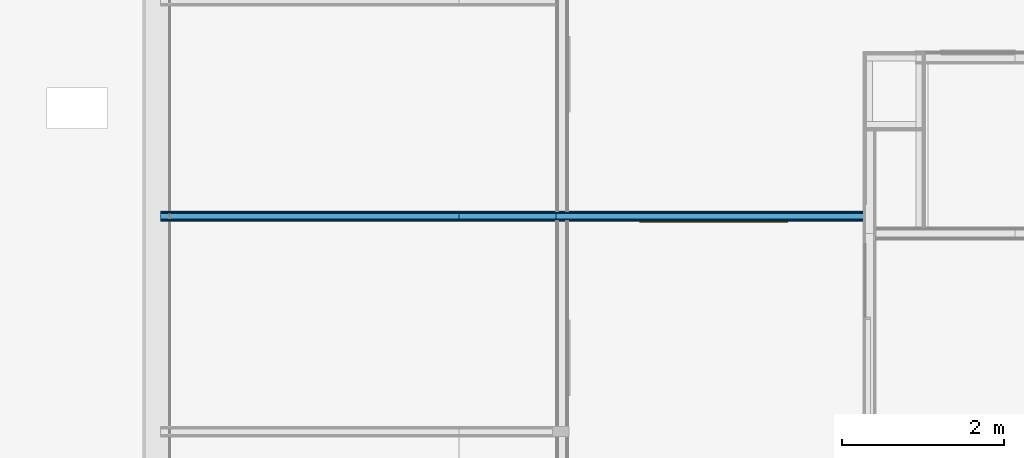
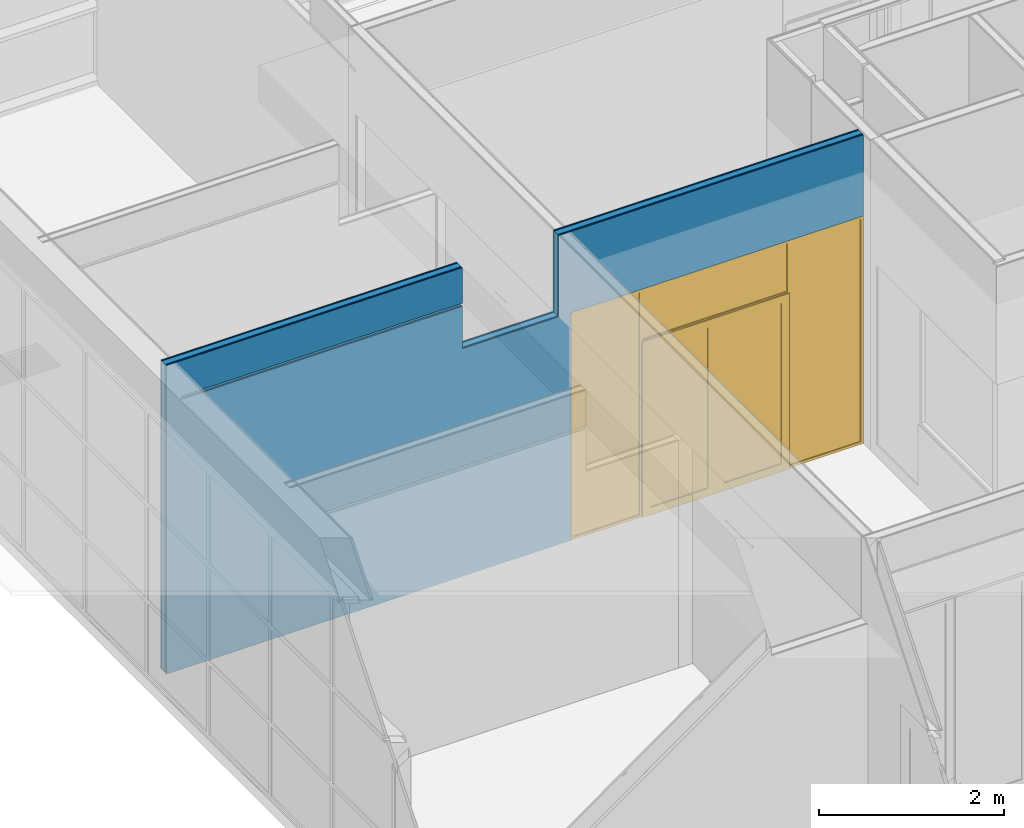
# One storey, part 41 of 109: 5 building element parts, 1 door, 1 opening, 1 element without a shape of its own.
"""IFC2X3 building model written with IfcOpenShell, lengths in millimetres."""

from ifc_helpers import new_model, entity, si_unit, converted_unit, derived_unit, money_unit, direction, frame, origin_with_axes, place, context, subcontext, project, spatial, open_shell, faceted_brep, surface_model, material, type_object, element, fill, aggregate, save


model = new_model("IFC2X3")

# Units and contexts
model_context = context("Model", 3, precision=0.01, world=origin_with_axes(), true_north=direction((0.0, 1.0)))
body_context = subcontext(model_context, "Body", "Model", "MODEL_VIEW")
ifc_project = project(units=[si_unit("LENGTHUNIT", "METRE", prefix="MILLI"), si_unit("AREAUNIT", "SQUARE_METRE"), si_unit("VOLUMEUNIT", "CUBIC_METRE"), converted_unit("PLANEANGLEUNIT", "DEGREE", entity("IfcPlaneAngleMeasure", 0.0174532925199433), si_unit("PLANEANGLEUNIT", "RADIAN"), dimensions=[0, 0, 0, 0, 0, 0, 0]), money_unit("EUR"), converted_unit("TIMEUNIT", "Year", entity("IfcTimeMeasure", 31557600.0), si_unit("TIMEUNIT", "SECOND"), dimensions=[0, 0, 1, 0, 0, 0, 0]), si_unit("MASSUNIT", "GRAM", prefix="KILO"), si_unit("THERMODYNAMICTEMPERATUREUNIT", "DEGREE_CELSIUS"), si_unit("LUMINOUSINTENSITYUNIT", "LUMEN"), si_unit("ENERGYUNIT", "JOULE", prefix="MEGA"), derived_unit("THERMALCONDUCTANCEUNIT", [(si_unit("POWERUNIT", "WATT"), 1), (si_unit("LENGTHUNIT", "METRE"), -1), (si_unit("THERMODYNAMICTEMPERATUREUNIT", "KELVIN"), -1)]), derived_unit("SPECIFICHEATCAPACITYUNIT", [(si_unit("ENERGYUNIT", "JOULE"), 1), (si_unit("MASSUNIT", "GRAM", prefix="KILO"), -1), (si_unit("THERMODYNAMICTEMPERATUREUNIT", "KELVIN"), -1)]), derived_unit("MASSDENSITYUNIT", [(si_unit("MASSUNIT", "GRAM", prefix="KILO"), 1), (si_unit("VOLUMEUNIT", "CUBIC_METRE"), -1)])], contexts=[model_context])

# Site, building, storey
site_placement = place(None, origin_with_axes())
site = spatial("IfcSite", under=ifc_project, at=site_placement, Name="<site naam>", CompositionType="ELEMENT")
building_placement = place(site_placement, origin_with_axes())
building = spatial("IfcBuilding", under=site, at=building_placement, Name="<Naam gebouw>", CompositionType="ELEMENT")
storey_placement = place(building_placement, origin_with_axes())
storey = spatial("IfcBuildingStorey", under=building, at=storey_placement, Name="00 Begane grond", CompositionType="ELEMENT", Elevation=0.0)

# Door
door_style = type_object("IfcDoorStyle", Name="D2 bl zl2 27", ConstructionType="NOTDEFINED", OperationType="USERDEFINED", ParameterTakesPrecedence=False, Sizeable=False)
wall_placement = place(storey_placement, frame((-8968.963389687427, 14666.66666666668, 0.0), z_axis=(0.0, 0.0, 1.0), x_axis=(1.0, 0.0, 0.0)))
opening_placement = place(wall_placement, frame((6868.963389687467, 0.0, 0.0), z_axis=(0.0, 0.0, 1.0), x_axis=(1.0, 0.0, 0.0)))
door_placement = place(opening_placement, frame((1825.000000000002, 0.0, 0.0), z_axis=(0.0, 0.0, 1.0), x_axis=(-1.0, 0.0, 0.0)))
door = element("IfcDoor", 1, at=door_placement, inside=storey, type_object=door_style, Name="22_BI-F-30_305", ObjectType="DOOR", OverallHeight=3000.0, OverallWidth=3650.0, context=body_context, shape_type="SurfaceModel", body=[
    faceted_brep([(3650.000000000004, 62.5, 0.0), (3650.000000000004, 42.50000000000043, 0.0), (3617.000000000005, 42.50000000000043, 0.0), (3617.000000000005, 62.5, 0.0), (3650.000000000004, 62.5, 2967.0), (3650.000000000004, 42.50000000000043, 2967.0), (3617.000000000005, 42.50000000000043, 2967.0), (3617.000000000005, 42.50000000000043, 33.0), (3617.000000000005, 62.5, 33.0), (3617.000000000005, 62.5, 2967.0)], [[[0, 1, 2, 3]], [[4, 5, 1, 0]], [[1, 5, 6, 7, 2]], [[3, 2, 7, 8]], [[0, 3, 8, 9, 4]], [[9, 6, 5, 4]], [[8, 7, 6, 9]]]),
    faceted_brep([(2767.000000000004, 42.50000000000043, 0.0), (2792.000000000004, 42.50000000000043, 0.0), (2792.000000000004, 42.50000000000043, 32.99999999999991), (2792.000000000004, 42.50000000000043, 2967.0), (2750.000000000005, 42.50000000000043, 2967.0), (2750.000000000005, 42.50000000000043, 2333.0), (2750.000000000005, 42.50000000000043, 2317.0), (2767.000000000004, 42.50000000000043, 2317.0), (2767.000000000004, 62.5, 0.0), (2792.000000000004, 62.5, 0.0), (2792.000000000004, 62.5, 32.99999999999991), (2792.000000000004, 62.5, 2967.0), (2750.000000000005, 62.5, 2967.0), (2750.000000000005, 62.5, 2333.0), (2750.000000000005, 62.5, 2317.0), (2767.000000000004, 62.5, 2317.0)], [[[0, 1, 2, 3, 4, 5, 6, 7]], [[8, 9, 1, 0]], [[9, 10, 2, 1]], [[10, 11, 3, 2]], [[11, 12, 4, 3]], [[12, 13, 5, 4]], [[6, 5, 13, 14]], [[14, 15, 7, 6]], [[7, 15, 8, 0]], [[15, 14, 13, 12, 11, 10, 9, 8]]]),
    faceted_brep([(3617.000000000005, 62.5, 33.0), (3617.000000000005, 42.50000000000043, 33.0), (3617.000000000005, 42.50000000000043, 0.0), (3617.000000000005, 62.5, 0.0), (2792.000000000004, 62.5, 33.0), (2792.000000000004, 42.50000000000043, 33.0), (2792.000000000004, 42.50000000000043, 0.0), (2792.000000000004, 62.5, 0.0)], [[[0, 1, 2, 3]], [[4, 5, 1, 0]], [[1, 5, 6, 2]], [[3, 2, 6, 7]], [[0, 3, 7, 4]], [[7, 6, 5, 4]]]),
    faceted_brep([(0.0, 62.5, 0.0), (0.0, 42.50000000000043, 0.0), (0.0, 42.50000000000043, 2967.0), (0.0, 62.5, 2967.0), (32.99999999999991, 62.5, 0.0), (32.99999999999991, 42.50000000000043, 0.0), (32.99999999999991, 42.50000000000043, 33.0), (32.99999999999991, 42.50000000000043, 2967.0), (32.99999999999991, 62.5, 2967.0), (32.99999999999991, 62.5, 33.0)], [[[0, 1, 2, 3]], [[4, 5, 1, 0]], [[1, 5, 6, 7, 2]], [[3, 2, 7, 8]], [[0, 3, 8, 9, 4]], [[9, 6, 5, 4]], [[8, 7, 6, 9]]]),
    faceted_brep([(933.0000000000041, 42.50000000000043, 2317.0), (950.0000000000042, 42.50000000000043, 2317.0), (950.0000000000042, 42.50000000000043, 2333.0), (950.0000000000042, 42.50000000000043, 2967.0), (908.0000000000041, 42.50000000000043, 2967.0), (908.0000000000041, 42.50000000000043, 32.99999999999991), (908.0000000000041, 42.50000000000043, 0.0), (933.0000000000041, 42.50000000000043, 0.0), (933.0000000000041, 62.5, 2317.0), (950.0000000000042, 62.5, 2317.0), (950.0000000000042, 62.5, 2333.0), (950.0000000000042, 62.5, 2967.0), (908.0000000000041, 62.5, 2967.0), (908.0000000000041, 62.5, 32.99999999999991), (908.0000000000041, 62.5, 0.0), (933.0000000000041, 62.5, 0.0)], [[[0, 1, 2, 3, 4, 5, 6, 7]], [[0, 8, 9, 1]], [[9, 10, 2, 1]], [[10, 11, 3, 2]], [[11, 12, 4, 3]], [[12, 13, 5, 4]], [[13, 14, 6, 5]], [[7, 6, 14, 15]], [[7, 15, 8, 0]], [[8, 15, 14, 13, 12, 11, 10, 9]]]),
    faceted_brep([(908.0000000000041, 62.5, 33.0), (908.0000000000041, 42.50000000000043, 33.0), (908.0000000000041, 42.50000000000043, 0.0), (908.0000000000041, 62.5, 0.0), (32.99999999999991, 62.5, 33.0), (32.99999999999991, 42.50000000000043, 33.0), (32.99999999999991, 42.50000000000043, 0.0), (32.99999999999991, 62.5, 0.0)], [[[0, 1, 2, 3]], [[4, 5, 1, 0]], [[1, 5, 6, 2]], [[3, 2, 6, 7]], [[0, 3, 7, 4]], [[7, 6, 5, 4]]]),
    faceted_brep([(3650.000000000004, 62.5, 3000.0), (3650.000000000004, 42.50000000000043, 3000.0), (3650.000000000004, 42.50000000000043, 2967.0), (3650.000000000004, 62.5, 2967.0), (0.0, 62.5, 3000.0), (0.0, 42.50000000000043, 3000.0), (0.0, 42.50000000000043, 2967.0), (32.99999999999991, 42.50000000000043, 2967.0), (908.0000000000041, 42.50000000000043, 2967.0), (950.000000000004, 42.50000000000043, 2967.0), (2750.000000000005, 42.50000000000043, 2967.0), (2792.000000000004, 42.50000000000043, 2967.0), (3617.000000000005, 42.50000000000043, 2967.0), (3617.000000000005, 62.5, 2967.0), (2792.000000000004, 62.5, 2967.0), (2750.000000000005, 62.5, 2967.0), (950.000000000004, 62.5, 2967.0), (908.0000000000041, 62.5, 2967.0), (32.99999999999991, 62.5, 2967.0), (0.0, 62.5, 2967.0)], [[[0, 1, 2, 3]], [[4, 5, 1, 0]], [[1, 5, 6, 7, 8, 9, 10, 11, 12, 2]], [[3, 2, 12, 13]], [[0, 3, 13, 14, 15, 16, 17, 18, 19, 4]], [[19, 6, 5, 4]], [[18, 7, 6, 19]], [[17, 8, 7, 18]], [[16, 9, 8, 17]], [[15, 10, 9, 16]], [[14, 11, 10, 15]], [[13, 12, 11, 14]]]),
    faceted_brep([(2750.000000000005, 42.50000000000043, 2317.0), (2750.000000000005, 42.50000000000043, 2333.0), (950.000000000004, 42.50000000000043, 2333.0), (950.000000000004, 42.50000000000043, 2317.0), (2750.000000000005, 62.5, 2317.0), (2750.000000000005, 62.5, 2333.0), (950.000000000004, 62.5, 2333.0), (950.000000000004, 62.5, 2317.0)], [[[0, 1, 2, 3]], [[4, 5, 1, 0]], [[5, 6, 2, 1]], [[3, 2, 6, 7]], [[7, 4, 0, 3]], [[7, 6, 5, 4]]]),
    faceted_brep([(933.0000000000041, 80.50000000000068, 100.0), (1033.000000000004, 80.50000000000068, 100.0), (1033.000000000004, 40.49999999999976, 100.0), (933.0000000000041, 40.49999999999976, 100.0), (933.0000000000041, 80.50000000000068, 2217.0), (1033.000000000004, 80.50000000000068, 2217.0), (1033.000000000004, 40.49999999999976, 2217.0), (933.0000000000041, 40.49999999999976, 2217.0)], [[[0, 1, 2, 3]], [[0, 4, 5, 1]], [[1, 5, 6, 2]], [[3, 2, 6, 7]], [[4, 0, 3, 7]], [[5, 4, 7, 6]]]),
    faceted_brep([(1850.000000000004, 80.50000000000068, 100.0), (1850.000000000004, 80.4999999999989, 2217.0), (1850.000000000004, 40.49999999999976, 2217.0), (1850.000000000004, 40.49999999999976, 100.0), (1750.000000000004, 80.50000000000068, 100.0), (1750.000000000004, 80.4999999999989, 2217.0), (1750.000000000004, 40.49999999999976, 2217.0), (1750.000000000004, 40.49999999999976, 100.0)], [[[0, 1, 2, 3]], [[0, 4, 5, 1]], [[1, 5, 6, 2]], [[3, 2, 6, 7]], [[4, 0, 3, 7]], [[5, 4, 7, 6]]]),
    faceted_brep([(933.0000000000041, 80.50000000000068, 0.0), (1850.000000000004, 80.50000000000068, 0.0), (1850.000000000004, 40.49999999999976, 0.0), (933.0000000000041, 40.49999999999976, 0.0), (933.0000000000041, 80.50000000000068, 100.0), (1033.000000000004, 80.50000000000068, 100.0), (1750.000000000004, 80.50000000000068, 100.0), (1850.000000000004, 80.50000000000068, 100.0), (1850.000000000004, 40.49999999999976, 100.0), (1750.000000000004, 40.49999999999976, 100.0), (1033.000000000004, 40.49999999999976, 100.0), (933.0000000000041, 40.49999999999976, 100.0)], [[[0, 1, 2, 3]], [[0, 4, 5, 6, 7, 1]], [[1, 7, 8, 2]], [[3, 2, 8, 9, 10, 11]], [[4, 0, 3, 11]], [[5, 4, 11, 10]], [[6, 5, 10, 9]], [[7, 6, 9, 8]]]),
    faceted_brep([(933.0000000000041, 80.50000000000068, 2317.0), (933.0000000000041, 80.50000000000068, 2217.0), (933.0000000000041, 40.49999999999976, 2217.0), (933.0000000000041, 40.49999999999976, 2317.0), (1850.000000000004, 80.4999999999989, 2317.0), (1850.000000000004, 80.4999999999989, 2217.0), (1750.000000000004, 80.4999999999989, 2217.0), (1033.000000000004, 80.50000000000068, 2217.0), (1033.000000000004, 40.49999999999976, 2217.0), (1750.000000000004, 40.49999999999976, 2217.0), (1850.000000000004, 40.49999999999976, 2217.0), (1850.000000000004, 40.49999999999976, 2317.0)], [[[0, 1, 2, 3]], [[0, 4, 5, 6, 7, 1]], [[1, 7, 8, 2]], [[3, 2, 8, 9, 10, 11]], [[4, 0, 3, 11]], [[5, 4, 11, 10]], [[6, 5, 10, 9]], [[7, 6, 9, 8]]]),
    surface_model("IfcShellBasedSurfaceModel", [(1033.000000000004, 66.49999999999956, 100.0), (1033.000000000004, 66.49999999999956, 2217.0), (1750.000000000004, 66.49999999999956, 2217.0), (1750.000000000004, 66.49999999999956, 100.0)], [open_shell([[[0, 1, 2, 3]]])]),
    surface_model("IfcShellBasedSurfaceModel", [(1033.000000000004, 54.50000000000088, 100.0), (1750.000000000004, 54.50000000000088, 100.0), (1750.000000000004, 54.4999999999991, 2217.0), (1033.000000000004, 54.4999999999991, 2217.0)], [open_shell([[[0, 1, 2, 3]]])]),
    faceted_brep([(2767.000000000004, 80.50000000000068, 100.0), (2767.000000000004, 40.49999999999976, 100.0), (2667.000000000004, 40.49999999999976, 100.0), (2667.000000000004, 80.50000000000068, 100.0), (2767.000000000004, 80.4999999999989, 2217.0), (2767.000000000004, 40.49999999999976, 2217.0), (2667.000000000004, 40.49999999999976, 2217.0), (2667.000000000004, 80.4999999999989, 2217.0)], [[[0, 1, 2, 3]], [[4, 5, 1, 0]], [[1, 5, 6, 2]], [[3, 2, 6, 7]], [[0, 3, 7, 4]], [[7, 6, 5, 4]]]),
    faceted_brep([(1850.000000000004, 80.50000000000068, 100.0), (1850.000000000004, 40.49999999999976, 100.0), (1850.000000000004, 40.49999999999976, 2217.0), (1850.000000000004, 80.4999999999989, 2217.0), (1950.000000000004, 80.50000000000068, 100.0), (1950.000000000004, 40.49999999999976, 100.0), (1950.000000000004, 40.49999999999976, 2217.0), (1950.000000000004, 80.4999999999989, 2217.0)], [[[0, 1, 2, 3]], [[4, 5, 1, 0]], [[1, 5, 6, 2]], [[3, 2, 6, 7]], [[0, 3, 7, 4]], [[7, 6, 5, 4]]]),
    faceted_brep([(2767.000000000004, 80.50000000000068, 0.0), (2767.000000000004, 40.49999999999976, 0.0), (1850.000000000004, 40.49999999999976, 0.0), (1850.000000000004, 80.50000000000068, 0.0), (2767.000000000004, 80.50000000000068, 100.0), (2767.000000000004, 40.49999999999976, 100.0), (2667.000000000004, 40.49999999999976, 100.0), (1950.000000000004, 40.49999999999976, 100.0), (1850.000000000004, 40.49999999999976, 100.0), (1850.000000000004, 80.50000000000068, 100.0), (1950.000000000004, 80.50000000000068, 100.0), (2667.000000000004, 80.50000000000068, 100.0)], [[[0, 1, 2, 3]], [[4, 5, 1, 0]], [[1, 5, 6, 7, 8, 2]], [[3, 2, 8, 9]], [[0, 3, 9, 10, 11, 4]], [[11, 6, 5, 4]], [[10, 7, 6, 11]], [[9, 8, 7, 10]]]),
    faceted_brep([(2767.000000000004, 80.4999999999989, 2317.0), (2767.000000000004, 40.49999999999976, 2317.0), (2767.000000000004, 40.49999999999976, 2217.0), (2767.000000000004, 80.4999999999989, 2217.0), (1850.000000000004, 80.4999999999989, 2317.0), (1850.000000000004, 40.49999999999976, 2317.0), (1850.000000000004, 40.49999999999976, 2217.0), (1950.000000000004, 40.49999999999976, 2217.0), (2667.000000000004, 40.49999999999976, 2217.0), (2667.000000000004, 80.4999999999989, 2217.0), (1950.000000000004, 80.4999999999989, 2217.0), (1850.000000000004, 80.4999999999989, 2217.0)], [[[0, 1, 2, 3]], [[4, 5, 1, 0]], [[1, 5, 6, 7, 8, 2]], [[3, 2, 8, 9]], [[0, 3, 9, 10, 11, 4]], [[11, 6, 5, 4]], [[10, 7, 6, 11]], [[9, 8, 7, 10]]]),
    surface_model("IfcShellBasedSurfaceModel", [(2667.000000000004, 66.49999999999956, 100.0), (1950.000000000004, 66.49999999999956, 100.0), (1950.000000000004, 66.49999999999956, 2217.0), (2667.000000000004, 66.49999999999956, 2217.0)], [open_shell([[[0, 1, 2, 3]]])]),
    surface_model("IfcShellBasedSurfaceModel", [(2667.000000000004, 54.4999999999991, 100.0), (2667.000000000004, 54.4999999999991, 2217.0), (1950.000000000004, 54.4999999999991, 2217.0), (1950.000000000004, 54.4999999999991, 100.0)], [open_shell([[[0, 1, 2, 3]]])]),
    surface_model("IfcShellBasedSurfaceModel", [(2750.000000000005, 36.5000000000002, 2333.0), (2750.000000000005, 36.5000000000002, 2967.0), (950.000000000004, 36.5000000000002, 2967.0), (950.000000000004, 36.5000000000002, 2333.0)], [open_shell([[[0, 1, 2, 3]]])]),
    surface_model("IfcShellBasedSurfaceModel", [(2750.000000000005, 48.49999999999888, 2333.0), (950.000000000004, 48.50000000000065, 2333.0), (950.000000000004, 48.50000000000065, 2967.0), (2750.000000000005, 48.49999999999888, 2967.0)], [open_shell([[[0, 1, 2, 3]]])]),
    surface_model("IfcShellBasedSurfaceModel", [(3617.000000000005, 36.5000000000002, 33.0), (3617.000000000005, 36.5000000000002, 2967.0), (2792.000000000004, 36.5000000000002, 2967.0), (2792.000000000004, 36.5000000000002, 33.0)], [open_shell([[[0, 1, 2, 3]]])]),
    surface_model("IfcShellBasedSurfaceModel", [(3617.000000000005, 48.50000000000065, 33.0), (2792.000000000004, 48.50000000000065, 33.0), (2792.000000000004, 48.49999999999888, 2967.0), (3617.000000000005, 48.49999999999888, 2967.0)], [open_shell([[[0, 1, 2, 3]]])]),
    surface_model("IfcShellBasedSurfaceModel", [(908.0000000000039, 36.5000000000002, 33.0), (908.0000000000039, 36.5000000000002, 2967.0), (32.99999999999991, 36.5000000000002, 2967.0), (32.99999999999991, 36.5000000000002, 33.0)], [open_shell([[[0, 1, 2, 3]]])]),
    surface_model("IfcShellBasedSurfaceModel", [(908.0000000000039, 48.50000000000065, 33.0), (32.99999999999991, 48.50000000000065, 33.0), (32.99999999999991, 48.50000000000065, 2967.0), (908.0000000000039, 48.50000000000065, 2967.0)], [open_shell([[[0, 1, 2, 3]]])]),
])

# Wall, opening
wall_type = type_object("IfcWallType", Name="MS-02 GF 125 ECO DGS/2.75.2.A 125", PredefinedType="NOTDEFINED")
wall = element("IfcWall", 2, at=wall_placement, inside=storey, type_object=wall_type, Name="22_Binnenwand_MS-02")
opening = element("IfcOpeningElement", 3, at=opening_placement, cuts=wall, Name="22_BI-F-30_305", context=body_context, shape_type="Brep", body=[
    faceted_brep([(1825.000000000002, 63.49999999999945, 3000.0), (1825.000000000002, 63.49999999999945, 0.0), (-1825.000000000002, 63.49999999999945, 0.0), (-1825.000000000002, 63.49999999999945, 3000.0), (1825.000000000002, -63.49999999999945, 3000.0), (1825.000000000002, -63.49999999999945, 0.0), (-1825.000000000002, -63.49999999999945, 0.0), (-1825.000000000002, -63.49999999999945, 3000.0)], [[[0, 1, 2, 3]], [[4, 5, 1, 0]], [[5, 6, 2, 1]], [[6, 7, 3, 2]], [[7, 4, 0, 3]], [[6, 5, 4, 7]]]),
])

fill(opening, door)

# Building element part
ifc_material_1 = material(Name="gipsplaat")
building_element_part_1_placement = place(wall_placement, origin_with_axes())
building_element_part_1 = element("IfcBuildingElementPart", 4, at=building_element_part_1_placement, material=ifc_material_1, Name="gipsplaat", context=body_context, shape_type="Brep", body=[
    faceted_brep([(3693.915193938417, 50.00000000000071, 4070.0), (3693.915193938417, 62.5, 4070.0), (0.0, 62.5, 4070.0), (0.0, 50.00000000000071, 4070.0), (3693.915193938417, 62.5, 3600.0), (3693.915193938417, 50.00000000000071, 3600.0), (3693.915193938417, 62.5, 3000.0), (4893.963384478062, 62.5, 3000.0), (4893.963384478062, 62.5, 4070.0), (8693.963389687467, 62.5, 4070.0), (8693.963745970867, 62.5, 3.000000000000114), (5043.963306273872, 62.5, 3.000000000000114), (5043.963306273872, 62.5, 0.0), (0.0, 62.5, 0.0), (184.4999999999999, 62.5, 3600.0), (184.4999999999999, 62.5, 3560.0), (3693.915193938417, 62.5, 3560.0), (0.0, 50.00000000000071, 0.0), (3693.915193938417, 50.00000000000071, 3000.0), (3693.915193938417, 50.00000000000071, 3560.0), (184.4999999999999, 50.00000000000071, 3560.0), (184.4999999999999, 50.00000000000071, 3600.0), (5043.963306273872, 50.00000000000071, 0.0), (5043.963306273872, 50.00000000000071, 3.000000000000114), (8693.963745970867, 50.00000000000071, 3.000000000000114), (8693.963389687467, 50.00000000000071, 4070.0), (4893.963384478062, 50.00000000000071, 4070.0), (4893.963384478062, 50.00000000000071, 3000.0)], [[[0, 1, 2, 3]], [[4, 1, 0, 5]], [[6, 7, 8, 9, 10, 11, 12, 13, 2, 1, 4, 14, 15, 16]], [[2, 13, 17, 3]], [[18, 19, 20, 21, 5, 0, 3, 17, 22, 23, 24, 25, 26, 27]], [[4, 5, 21, 14]], [[7, 6, 18, 27]], [[26, 8, 7, 27]], [[8, 26, 25, 9]], [[24, 10, 9, 25]], [[11, 10, 24, 23]], [[12, 11, 23, 22]], [[12, 22, 17, 13]], [[15, 14, 21, 20]], [[19, 16, 15, 20]], [[6, 16, 19, 18]]]),
])

ifc_material_2 = material(Name="isolatie_steenwol LSW")
building_element_part_2_placement = place(wall_placement, origin_with_axes())
building_element_part_2 = element("IfcBuildingElementPart", 5, at=building_element_part_2_placement, material=ifc_material_2, Name="isolatie_steenwol LSW", context=body_context, shape_type="Brep", body=[
    faceted_brep([(3693.915193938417, -37.50000000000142, 4070.0), (3693.915193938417, 37.50000000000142, 4070.0), (0.0, 37.49999999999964, 4070.0), (0.0, -37.49999999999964, 4070.0), (3693.915193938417, 37.50000000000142, 3600.0), (3693.915193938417, -37.49999999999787, 3600.0), (3693.915193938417, 37.50000000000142, 3000.0), (4893.963384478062, 37.50000000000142, 3000.0), (4893.963384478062, 37.49999999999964, 4070.0), (8693.963389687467, 37.50000000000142, 4070.0), (8693.963745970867, 37.50000000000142, 3.000000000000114), (5043.963306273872, 37.50000000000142, 3.000000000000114), (5043.963306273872, 37.49999999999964, 0.0), (0.0, 37.49999999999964, 0.0), (184.4999999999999, 37.50000000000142, 3600.0), (184.4999999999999, 37.50000000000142, 3560.0), (3693.915193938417, 37.50000000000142, 3560.0), (0.0, -37.49999999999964, 0.0), (3693.915193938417, -37.49999999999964, 3000.0), (3693.915193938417, -37.49999999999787, 3560.0), (184.4999999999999, -37.49999999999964, 3560.0), (184.4999999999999, -37.49999999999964, 3600.0), (5043.963306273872, -37.49999999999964, 0.0), (5043.963306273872, -37.49999999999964, 3.000000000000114), (8693.963745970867, -37.49999999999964, 3.000000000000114), (8693.963389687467, -37.49999999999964, 4070.0), (4893.963384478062, -37.49999999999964, 4070.0), (4893.963384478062, -37.49999999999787, 3000.0)], [[[0, 1, 2, 3]], [[4, 1, 0, 5]], [[6, 7, 8, 9, 10, 11, 12, 13, 2, 1, 4, 14, 15, 16]], [[2, 13, 17, 3]], [[18, 19, 20, 21, 5, 0, 3, 17, 22, 23, 24, 25, 26, 27]], [[4, 5, 21, 14]], [[7, 6, 18, 27]], [[26, 8, 7, 27]], [[8, 26, 25, 9]], [[24, 10, 9, 25]], [[11, 10, 24, 23]], [[12, 11, 23, 22]], [[12, 22, 17, 13]], [[15, 14, 21, 20]], [[19, 16, 15, 20]], [[6, 16, 19, 18]]]),
])

building_element_part_3_placement = place(wall_placement, origin_with_axes())
building_element_part_3 = element("IfcBuildingElementPart", 6, at=building_element_part_3_placement, material=ifc_material_1, Name="gipsplaat", context=body_context, shape_type="Brep", body=[
    faceted_brep([(3693.915193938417, 37.50000000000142, 4070.0), (3693.915193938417, 50.00000000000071, 4070.0), (0.0, 50.00000000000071, 4070.0), (0.0, 37.49999999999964, 4070.0), (3693.915193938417, 50.00000000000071, 3600.0), (3693.915193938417, 37.50000000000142, 3600.0), (3693.915193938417, 50.00000000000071, 3000.0), (4893.963384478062, 50.00000000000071, 3000.0), (4893.963384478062, 50.00000000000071, 4070.0), (8693.963389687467, 50.00000000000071, 4070.0), (8693.963745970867, 50.00000000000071, 3.000000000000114), (5043.963306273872, 50.00000000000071, 3.000000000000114), (5043.963306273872, 50.00000000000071, 0.0), (0.0, 50.00000000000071, 0.0), (184.4999999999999, 50.00000000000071, 3600.0), (184.4999999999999, 50.00000000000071, 3560.0), (3693.915193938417, 50.00000000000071, 3560.0), (0.0, 37.49999999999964, 0.0), (3693.915193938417, 37.50000000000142, 3000.0), (3693.915193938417, 37.50000000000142, 3560.0), (184.4999999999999, 37.50000000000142, 3560.0), (184.4999999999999, 37.50000000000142, 3600.0), (5043.963306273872, 37.50000000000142, 0.0), (5043.963306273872, 37.50000000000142, 3.000000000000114), (8693.963745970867, 37.50000000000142, 3.000000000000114), (8693.963389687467, 37.50000000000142, 4070.0), (4893.963384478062, 37.50000000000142, 4070.0), (4893.963384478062, 37.50000000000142, 3000.0)], [[[0, 1, 2, 3]], [[4, 1, 0, 5]], [[6, 7, 8, 9, 10, 11, 12, 13, 2, 1, 4, 14, 15, 16]], [[2, 13, 17, 3]], [[18, 19, 20, 21, 5, 0, 3, 17, 22, 23, 24, 25, 26, 27]], [[4, 5, 21, 14]], [[7, 6, 18, 27]], [[26, 8, 7, 27]], [[8, 26, 25, 9]], [[24, 10, 9, 25]], [[11, 10, 24, 23]], [[12, 11, 23, 22]], [[12, 22, 17, 13]], [[15, 14, 21, 20]], [[19, 16, 15, 20]], [[6, 16, 19, 18]]]),
])

building_element_part_4_placement = place(wall_placement, origin_with_axes())
building_element_part_4 = element("IfcBuildingElementPart", 7, at=building_element_part_4_placement, material=ifc_material_1, Name="gipsplaat", context=body_context, shape_type="Brep", body=[
    faceted_brep([(3693.915193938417, -50.00000000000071, 4070.0), (3693.915193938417, -37.50000000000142, 4070.0), (0.0, -37.49999999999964, 4070.0), (0.0, -49.99999999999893, 4070.0), (3693.915193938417, -37.50000000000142, 3600.0), (3693.915193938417, -49.99999999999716, 3600.0), (3693.915193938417, -37.50000000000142, 3000.0), (4893.963384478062, -37.50000000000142, 3000.0), (4893.963384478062, -37.49999999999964, 4070.0), (8693.963389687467, -37.49999999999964, 4070.0), (8693.963745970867, -37.49999999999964, 3.000000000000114), (5043.963306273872, -37.49999999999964, 3.000000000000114), (5043.963306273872, -37.49999999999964, 0.0), (0.0, -37.49999999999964, 0.0), (184.4999999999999, -37.49999999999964, 3600.0), (184.4999999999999, -37.49999999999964, 3560.0), (3693.915193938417, -37.50000000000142, 3560.0), (0.0, -50.00000000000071, 0.0), (3693.915193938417, -50.00000000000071, 3000.0), (3693.915193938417, -49.99999999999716, 3560.0), (184.4999999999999, -49.99999999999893, 3560.0), (184.4999999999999, -49.99999999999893, 3600.0), (5043.963306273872, -49.99999999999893, 0.0), (5043.963306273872, -49.99999999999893, 3.000000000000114), (8693.963745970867, -49.99999999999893, 3.000000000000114), (8693.963389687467, -49.99999999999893, 4070.0), (4893.963384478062, -49.99999999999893, 4070.0), (4893.963384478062, -49.99999999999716, 3000.0)], [[[0, 1, 2, 3]], [[4, 1, 0, 5]], [[6, 7, 8, 9, 10, 11, 12, 13, 2, 1, 4, 14, 15, 16]], [[2, 13, 17, 3]], [[18, 19, 20, 21, 5, 0, 3, 17, 22, 23, 24, 25, 26, 27]], [[4, 5, 21, 14]], [[7, 6, 18, 27]], [[26, 8, 7, 27]], [[8, 26, 25, 9]], [[24, 10, 9, 25]], [[11, 10, 24, 23]], [[12, 11, 23, 22]], [[12, 22, 17, 13]], [[15, 14, 21, 20]], [[19, 16, 15, 20]], [[6, 16, 19, 18]]]),
])

building_element_part_5_placement = place(wall_placement, origin_with_axes())
building_element_part_5 = element("IfcBuildingElementPart", 8, at=building_element_part_5_placement, material=ifc_material_1, Name="gipsplaat", context=body_context, shape_type="Brep", body=[
    faceted_brep([(3693.915193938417, -62.5, 4070.0), (3693.915193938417, -50.00000000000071, 4070.0), (0.0, -49.99999999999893, 4070.0), (0.0, -62.5, 4070.0), (3693.915193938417, -50.00000000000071, 3600.0), (3693.915193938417, -62.5, 3600.0), (3693.915193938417, -50.00000000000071, 3000.0), (4893.963384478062, -49.99999999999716, 3000.0), (4893.963384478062, -49.99999999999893, 4070.0), (8693.963389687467, -49.99999999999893, 4070.0), (8693.963745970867, -49.99999999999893, 3.000000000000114), (5043.963306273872, -49.99999999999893, 3.000000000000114), (5043.963306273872, -50.00000000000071, 0.0), (0.0, -50.00000000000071, 0.0), (184.4999999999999, -49.99999999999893, 3600.0), (184.4999999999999, -49.99999999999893, 3560.0), (3693.915193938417, -50.00000000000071, 3560.0), (0.0, -62.5, 0.0), (3693.915193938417, -62.5, 3000.0), (3693.915193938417, -62.5, 3560.0), (184.4999999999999, -62.5, 3560.0), (184.4999999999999, -62.5, 3600.0), (5043.963306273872, -62.5, 0.0), (5043.963306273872, -62.5, 3.000000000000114), (8693.963745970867, -62.5, 3.000000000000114), (8693.963389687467, -62.5, 4070.0), (4893.963384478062, -62.5, 4070.0), (4893.963384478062, -62.5, 3000.0)], [[[0, 1, 2, 3]], [[4, 1, 0, 5]], [[6, 7, 8, 9, 10, 11, 12, 13, 2, 1, 4, 14, 15, 16]], [[2, 13, 17, 3]], [[18, 19, 20, 21, 5, 0, 3, 17, 22, 23, 24, 25, 26, 27]], [[4, 5, 21, 14]], [[7, 6, 18, 27]], [[26, 8, 7, 27]], [[8, 26, 25, 9]], [[24, 10, 9, 25]], [[11, 10, 24, 23]], [[12, 11, 23, 22]], [[12, 22, 17, 13]], [[15, 14, 21, 20]], [[19, 16, 15, 20]], [[6, 16, 19, 18]]]),
])

aggregate(wall, [building_element_part_1, building_element_part_2, building_element_part_3, building_element_part_4, building_element_part_5])

save(model, "model.ifc")
